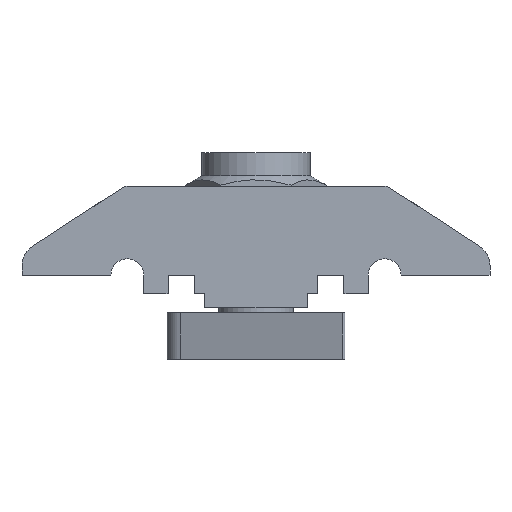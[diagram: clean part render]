
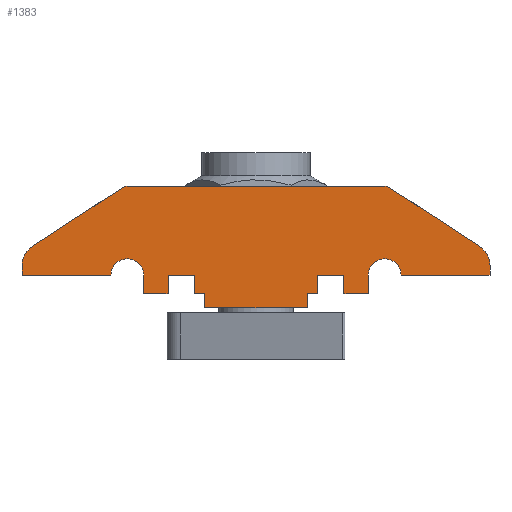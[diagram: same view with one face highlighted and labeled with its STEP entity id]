
A CAD part, left-side view. The second image highlights one B-rep face of the part: STEP entity #1383.
In plain terms, the highlighted planar face has unit normal (-1, 0, 0).
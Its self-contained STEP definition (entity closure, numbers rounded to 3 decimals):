
#130=FACE_OUTER_BOUND('',#207,.T.);
#207=EDGE_LOOP('',(#1126,#1127,#1128,#1129,#1130,#1131,#1132,#1133,#1134,
#1135,#1136,#1137,#1138,#1139,#1140,#1141,#1142,#1143,#1144,#1145,#1146,
#1147,#1148,#1149,#1150,#1151,#1152,#1153));
#252=CIRCLE('',#1527,1.);
#254=CIRCLE('',#1532,1.);
#262=CIRCLE('',#1560,1.75);
#263=CIRCLE('',#1563,1.75);
#264=CIRCLE('',#1568,2.5);
#265=CIRCLE('',#1572,2.5);
#309=LINE('',#2099,#447);
#316=LINE('',#2116,#454);
#320=LINE('',#2132,#458);
#324=LINE('',#2140,#462);
#334=LINE('',#2160,#472);
#342=LINE('',#2176,#480);
#346=LINE('',#2184,#484);
#350=LINE('',#2194,#488);
#353=LINE('',#2200,#491);
#358=LINE('',#2209,#496);
#361=LINE('',#2215,#499);
#374=LINE('',#2249,#512);
#376=LINE('',#2252,#514);
#377=LINE('',#2254,#515);
#378=LINE('',#2258,#516);
#382=LINE('',#2268,#520);
#386=LINE('',#2276,#524);
#387=LINE('',#2278,#525);
#389=LINE('',#2282,#527);
#394=LINE('',#2293,#532);
#395=LINE('',#2297,#533);
#396=LINE('',#2300,#534);
#447=VECTOR('',#1695,10.);
#454=VECTOR('',#1712,10.);
#458=VECTOR('',#1728,10.);
#462=VECTOR('',#1732,10.);
#472=VECTOR('',#1744,10.);
#480=VECTOR('',#1758,10.);
#484=VECTOR('',#1766,10.);
#488=VECTOR('',#1774,10.);
#491=VECTOR('',#1779,10.);
#496=VECTOR('',#1786,10.);
#499=VECTOR('',#1791,10.);
#512=VECTOR('',#1820,10.);
#514=VECTOR('',#1824,10.);
#515=VECTOR('',#1827,10.);
#516=VECTOR('',#1830,10.);
#520=VECTOR('',#1840,10.);
#524=VECTOR('',#1850,10.);
#525=VECTOR('',#1853,10.);
#527=VECTOR('',#1857,10.);
#532=VECTOR('',#1870,10.);
#533=VECTOR('',#1877,10.);
#534=VECTOR('',#1882,10.);
#587=VERTEX_POINT('',#2096);
#588=VERTEX_POINT('',#2098);
#591=VERTEX_POINT('',#2106);
#593=VERTEX_POINT('',#2114);
#594=VERTEX_POINT('',#2118);
#597=VERTEX_POINT('',#2128);
#599=VERTEX_POINT('',#2131);
#602=VERTEX_POINT('',#2137);
#603=VERTEX_POINT('',#2139);
#610=VERTEX_POINT('',#2154);
#612=VERTEX_POINT('',#2158);
#617=VERTEX_POINT('',#2173);
#619=VERTEX_POINT('',#2182);
#621=VERTEX_POINT('',#2190);
#623=VERTEX_POINT('',#2193);
#625=VERTEX_POINT('',#2199);
#628=VERTEX_POINT('',#2207);
#630=VERTEX_POINT('',#2213);
#643=VERTEX_POINT('',#2248);
#644=VERTEX_POINT('',#2256);
#645=VERTEX_POINT('',#2257);
#646=VERTEX_POINT('',#2262);
#647=VERTEX_POINT('',#2266);
#648=VERTEX_POINT('',#2267);
#649=VERTEX_POINT('',#2272);
#650=VERTEX_POINT('',#2280);
#651=VERTEX_POINT('',#2284);
#652=VERTEX_POINT('',#2285);
#725=EDGE_CURVE('',#588,#587,#309,.T.);
#730=EDGE_CURVE('',#587,#591,#252,.T.);
#734=EDGE_CURVE('',#593,#591,#316,.T.);
#736=EDGE_CURVE('',#593,#594,#254,.T.);
#741=EDGE_CURVE('',#599,#597,#320,.T.);
#745=EDGE_CURVE('',#603,#602,#324,.T.);
#755=EDGE_CURVE('',#610,#612,#334,.T.);
#763=EDGE_CURVE('',#617,#599,#342,.T.);
#767=EDGE_CURVE('',#602,#619,#346,.T.);
#771=EDGE_CURVE('',#623,#621,#350,.T.);
#774=EDGE_CURVE('',#625,#623,#353,.T.);
#779=EDGE_CURVE('',#612,#628,#358,.T.);
#782=EDGE_CURVE('',#597,#630,#361,.T.);
#800=EDGE_CURVE('',#628,#643,#374,.T.);
#802=EDGE_CURVE('',#643,#603,#376,.T.);
#803=EDGE_CURVE('',#630,#625,#377,.T.);
#804=EDGE_CURVE('',#644,#645,#378,.T.);
#807=EDGE_CURVE('',#646,#644,#262,.T.);
#809=EDGE_CURVE('',#647,#648,#382,.T.);
#812=EDGE_CURVE('',#648,#649,#263,.T.);
#814=EDGE_CURVE('',#649,#610,#386,.T.);
#815=EDGE_CURVE('',#621,#646,#387,.T.);
#817=EDGE_CURVE('',#650,#645,#389,.T.);
#818=EDGE_CURVE('',#651,#652,#264,.T.);
#823=EDGE_CURVE('',#594,#651,#394,.T.);
#824=EDGE_CURVE('',#650,#588,#265,.T.);
#825=EDGE_CURVE('',#647,#652,#395,.T.);
#826=EDGE_CURVE('',#617,#619,#396,.T.);
#1126=ORIENTED_EDGE('',*,*,#771,.T.);
#1127=ORIENTED_EDGE('',*,*,#815,.T.);
#1128=ORIENTED_EDGE('',*,*,#807,.T.);
#1129=ORIENTED_EDGE('',*,*,#804,.T.);
#1130=ORIENTED_EDGE('',*,*,#817,.F.);
#1131=ORIENTED_EDGE('',*,*,#824,.T.);
#1132=ORIENTED_EDGE('',*,*,#725,.T.);
#1133=ORIENTED_EDGE('',*,*,#730,.T.);
#1134=ORIENTED_EDGE('',*,*,#734,.F.);
#1135=ORIENTED_EDGE('',*,*,#736,.T.);
#1136=ORIENTED_EDGE('',*,*,#823,.T.);
#1137=ORIENTED_EDGE('',*,*,#818,.T.);
#1138=ORIENTED_EDGE('',*,*,#825,.F.);
#1139=ORIENTED_EDGE('',*,*,#809,.T.);
#1140=ORIENTED_EDGE('',*,*,#812,.T.);
#1141=ORIENTED_EDGE('',*,*,#814,.T.);
#1142=ORIENTED_EDGE('',*,*,#755,.T.);
#1143=ORIENTED_EDGE('',*,*,#779,.T.);
#1144=ORIENTED_EDGE('',*,*,#800,.T.);
#1145=ORIENTED_EDGE('',*,*,#802,.T.);
#1146=ORIENTED_EDGE('',*,*,#745,.T.);
#1147=ORIENTED_EDGE('',*,*,#767,.T.);
#1148=ORIENTED_EDGE('',*,*,#826,.F.);
#1149=ORIENTED_EDGE('',*,*,#763,.T.);
#1150=ORIENTED_EDGE('',*,*,#741,.T.);
#1151=ORIENTED_EDGE('',*,*,#782,.T.);
#1152=ORIENTED_EDGE('',*,*,#803,.T.);
#1153=ORIENTED_EDGE('',*,*,#774,.T.);
#1321=PLANE('',#1576);
#1383=ADVANCED_FACE('',(#130),#1321,.F.);
#1527=AXIS2_PLACEMENT_3D('',#2108,#1702,#1703);
#1532=AXIS2_PLACEMENT_3D('',#2120,#1716,#1717);
#1560=AXIS2_PLACEMENT_3D('',#2263,#1835,#1836);
#1563=AXIS2_PLACEMENT_3D('',#2273,#1845,#1846);
#1568=AXIS2_PLACEMENT_3D('',#2286,#1860,#1861);
#1572=AXIS2_PLACEMENT_3D('',#2295,#1873,#1874);
#1576=AXIS2_PLACEMENT_3D('',#2301,#1883,#1884);
#1695=DIRECTION('',(0.,0.838,0.546));
#1702=DIRECTION('center_axis',(-1.,0.,0.));
#1703=DIRECTION('ref_axis',(0.,0.,-1.));
#1712=DIRECTION('',(0.,-1.,0.));
#1716=DIRECTION('center_axis',(-1.,0.,0.));
#1717=DIRECTION('ref_axis',(0.,-0.546,-0.838));
#1728=DIRECTION('',(0.,-1.,0.));
#1732=DIRECTION('',(0.,-1.,0.));
#1744=DIRECTION('',(0.,-1.,0.));
#1758=DIRECTION('',(0.,0.,1.));
#1766=DIRECTION('',(0.,0.,-1.));
#1774=DIRECTION('',(0.,-1.,0.));
#1779=DIRECTION('',(0.,0.,-1.));
#1786=DIRECTION('',(0.,0.,1.));
#1791=DIRECTION('',(0.,0.,1.));
#1820=DIRECTION('',(0.,-1.,0.));
#1824=DIRECTION('',(0.,0.,-1.));
#1827=DIRECTION('',(0.,-1.,0.));
#1830=DIRECTION('',(0.,-1.,0.));
#1835=DIRECTION('center_axis',(1.,0.,0.));
#1836=DIRECTION('ref_axis',(0.,1.,0.));
#1840=DIRECTION('',(0.,-1.,0.));
#1845=DIRECTION('center_axis',(1.,0.,0.));
#1846=DIRECTION('ref_axis',(0.,1.,0.));
#1850=DIRECTION('',(0.,0.,-1.));
#1853=DIRECTION('',(0.,0.,1.));
#1857=DIRECTION('',(0.,0.,-1.));
#1860=DIRECTION('center_axis',(-1.,0.,0.));
#1861=DIRECTION('ref_axis',(0.,-1.,0.));
#1870=DIRECTION('',(0.,0.838,-0.546));
#1873=DIRECTION('center_axis',(-1.,0.,0.));
#1874=DIRECTION('ref_axis',(0.,0.546,-0.838));
#1877=DIRECTION('',(0.,0.,1.));
#1882=DIRECTION('',(0.,1.,0.));
#1883=DIRECTION('center_axis',(1.,0.,0.));
#1884=DIRECTION('ref_axis',(0.,0.,-1.));
#2096=CARTESIAN_POINT('',(0.,10.704,12.838));
#2098=CARTESIAN_POINT('',(0.,1.134,6.594));
#2099=CARTESIAN_POINT('',(0.,14.267,15.163));
#2106=CARTESIAN_POINT('',(0.,11.25,13.));
#2108=CARTESIAN_POINT('Origin',(0.,11.25,12.));
#2114=CARTESIAN_POINT('',(0.,38.75,13.));
#2116=CARTESIAN_POINT('',(0.,50.,13.));
#2118=CARTESIAN_POINT('',(0.,39.296,12.838));
#2120=CARTESIAN_POINT('Origin',(0.,38.75,12.));
#2128=CARTESIAN_POINT('',(0.,18.4,1.5));
#2131=CARTESIAN_POINT('',(0.,19.5,1.5));
#2132=CARTESIAN_POINT('',(0.,24.241,1.5));
#2137=CARTESIAN_POINT('',(0.,30.5,1.5));
#2139=CARTESIAN_POINT('',(0.,31.6,1.5));
#2140=CARTESIAN_POINT('',(0.,24.241,1.5));
#2154=CARTESIAN_POINT('',(0.,37.,1.5));
#2158=CARTESIAN_POINT('',(0.,34.4,1.5));
#2160=CARTESIAN_POINT('',(0.,24.241,1.5));
#2173=CARTESIAN_POINT('',(0.,19.5,0.));
#2176=CARTESIAN_POINT('',(0.,19.5,3.25));
#2182=CARTESIAN_POINT('',(0.,30.5,0.));
#2184=CARTESIAN_POINT('',(0.,30.5,3.25));
#2190=CARTESIAN_POINT('',(0.,13.,1.5));
#2193=CARTESIAN_POINT('',(0.,15.6,1.5));
#2194=CARTESIAN_POINT('',(0.,24.241,1.5));
#2199=CARTESIAN_POINT('',(0.,15.6,3.5));
#2200=CARTESIAN_POINT('',(0.,15.6,3.25));
#2207=CARTESIAN_POINT('',(0.,34.4,3.5));
#2209=CARTESIAN_POINT('',(0.,34.4,5.));
#2213=CARTESIAN_POINT('',(0.,18.4,3.5));
#2215=CARTESIAN_POINT('',(0.,18.4,5.));
#2248=CARTESIAN_POINT('',(0.,31.6,3.5));
#2249=CARTESIAN_POINT('',(0.,28.3,3.5));
#2252=CARTESIAN_POINT('',(0.,31.6,3.25));
#2254=CARTESIAN_POINT('',(0.,20.3,3.5));
#2256=CARTESIAN_POINT('',(0.,9.5,3.5));
#2257=CARTESIAN_POINT('',(0.,0.,3.5));
#2258=CARTESIAN_POINT('',(0.,12.5,3.5));
#2262=CARTESIAN_POINT('',(0.,13.,3.5));
#2263=CARTESIAN_POINT('Origin',(0.,11.25,3.5));
#2266=CARTESIAN_POINT('',(0.,50.,3.5));
#2267=CARTESIAN_POINT('',(0.,40.5,3.5));
#2268=CARTESIAN_POINT('',(0.,32.75,3.5));
#2272=CARTESIAN_POINT('',(0.,37.,3.5));
#2273=CARTESIAN_POINT('Origin',(0.,38.75,3.5));
#2276=CARTESIAN_POINT('',(0.,37.,3.25));
#2278=CARTESIAN_POINT('',(0.,13.,5.));
#2280=CARTESIAN_POINT('',(0.,0.,4.5));
#2282=CARTESIAN_POINT('',(0.,0.,13.));
#2284=CARTESIAN_POINT('',(0.,48.866,6.594));
#2285=CARTESIAN_POINT('',(0.,50.,4.5));
#2286=CARTESIAN_POINT('Origin',(0.,47.5,4.5));
#2293=CARTESIAN_POINT('',(0.,40.518,12.041));
#2295=CARTESIAN_POINT('Origin',(0.,2.5,4.5));
#2297=CARTESIAN_POINT('',(0.,50.,0.));
#2300=CARTESIAN_POINT('',(0.,0.,0.));
#2301=CARTESIAN_POINT('Origin',(0.,25.,6.5));
